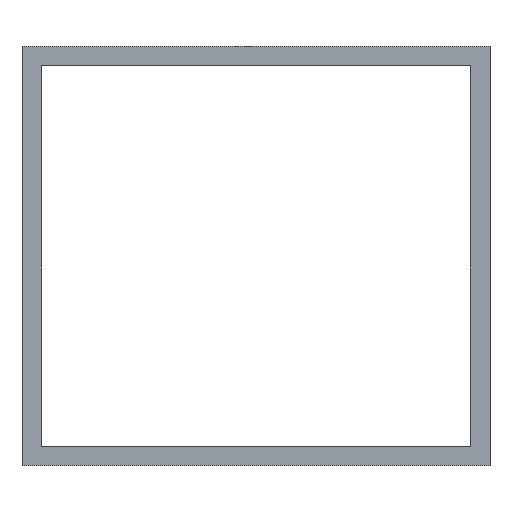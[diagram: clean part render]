
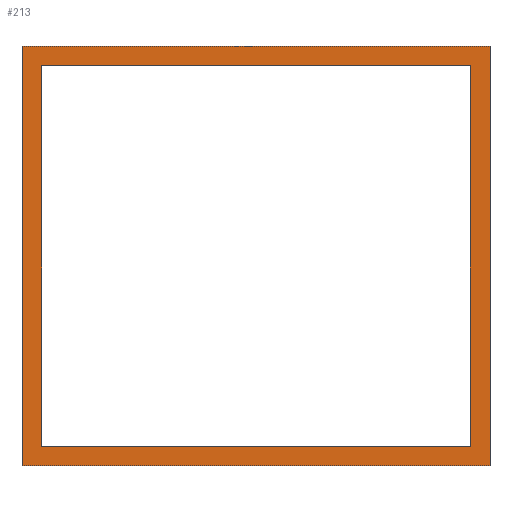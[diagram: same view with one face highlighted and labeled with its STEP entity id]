
A CAD part, top view. The second image highlights one B-rep face of the part: STEP entity #213.
In plain terms, the highlighted planar face has unit normal (0, 0, 1).
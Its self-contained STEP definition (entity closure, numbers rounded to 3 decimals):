
#24 = VERTEX_POINT('',#25);
#25 = CARTESIAN_POINT('',(-48.,-43.,1.8));
#32 = PLANE('',#33);
#33 = AXIS2_PLACEMENT_3D('',#34,#35,#36);
#34 = CARTESIAN_POINT('',(-48.,-43.,0.));
#35 = DIRECTION('',(1.,0.,0.));
#36 = DIRECTION('',(0.,0.,1.));
#44 = PLANE('',#45);
#45 = AXIS2_PLACEMENT_3D('',#46,#47,#48);
#46 = CARTESIAN_POINT('',(-48.,-43.,0.));
#47 = DIRECTION('',(0.,1.,0.));
#48 = DIRECTION('',(0.,0.,1.));
#85 = VERTEX_POINT('',#86);
#86 = CARTESIAN_POINT('',(-48.,43.,1.8));
#100 = PLANE('',#101);
#101 = AXIS2_PLACEMENT_3D('',#102,#103,#104);
#102 = CARTESIAN_POINT('',(-48.,43.,0.));
#103 = DIRECTION('',(0.,1.,0.));
#104 = DIRECTION('',(0.,0.,1.));
#112 = EDGE_CURVE('',#24,#85,#113,.T.);
#113 = SURFACE_CURVE('',#114,(#118,#125),.PCURVE_S1.);
#114 = LINE('',#115,#116);
#115 = CARTESIAN_POINT('',(-48.,-43.,1.8));
#116 = VECTOR('',#117,1.);
#117 = DIRECTION('',(0.,1.,0.));
#118 = PCURVE('',#32,#119);
#119 = DEFINITIONAL_REPRESENTATION('',(#120),#124);
#120 = LINE('',#121,#122);
#121 = CARTESIAN_POINT('',(1.8,0.));
#122 = VECTOR('',#123,1.);
#123 = DIRECTION('',(0.,-1.));
#124 = ( GEOMETRIC_REPRESENTATION_CONTEXT(2) 
PARAMETRIC_REPRESENTATION_CONTEXT() REPRESENTATION_CONTEXT('2D SPACE',''
  ) );
#125 = PCURVE('',#126,#131);
#126 = PLANE('',#127);
#127 = AXIS2_PLACEMENT_3D('',#128,#129,#130);
#128 = CARTESIAN_POINT('',(-48.,-43.,1.8));
#129 = DIRECTION('',(0.,0.,1.));
#130 = DIRECTION('',(1.,0.,0.));
#131 = DEFINITIONAL_REPRESENTATION('',(#132),#136);
#132 = LINE('',#133,#134);
#133 = CARTESIAN_POINT('',(0.,0.));
#134 = VECTOR('',#135,1.);
#135 = DIRECTION('',(0.,1.));
#136 = ( GEOMETRIC_REPRESENTATION_CONTEXT(2) 
PARAMETRIC_REPRESENTATION_CONTEXT() REPRESENTATION_CONTEXT('2D SPACE',''
  ) );
#165 = EDGE_CURVE('',#24,#166,#168,.T.);
#166 = VERTEX_POINT('',#167);
#167 = CARTESIAN_POINT('',(48.,-43.,1.8));
#168 = SURFACE_CURVE('',#169,(#173,#180),.PCURVE_S1.);
#169 = LINE('',#170,#171);
#170 = CARTESIAN_POINT('',(-48.,-43.,1.8));
#171 = VECTOR('',#172,1.);
#172 = DIRECTION('',(1.,0.,0.));
#173 = PCURVE('',#44,#174);
#174 = DEFINITIONAL_REPRESENTATION('',(#175),#179);
#175 = LINE('',#176,#177);
#176 = CARTESIAN_POINT('',(1.8,0.));
#177 = VECTOR('',#178,1.);
#178 = DIRECTION('',(0.,1.));
#179 = ( GEOMETRIC_REPRESENTATION_CONTEXT(2) 
PARAMETRIC_REPRESENTATION_CONTEXT() REPRESENTATION_CONTEXT('2D SPACE',''
  ) );
#180 = PCURVE('',#126,#181);
#181 = DEFINITIONAL_REPRESENTATION('',(#182),#186);
#182 = LINE('',#183,#184);
#183 = CARTESIAN_POINT('',(0.,0.));
#184 = VECTOR('',#185,1.);
#185 = DIRECTION('',(1.,0.));
#186 = ( GEOMETRIC_REPRESENTATION_CONTEXT(2) 
PARAMETRIC_REPRESENTATION_CONTEXT() REPRESENTATION_CONTEXT('2D SPACE',''
  ) );
#202 = PLANE('',#203);
#203 = AXIS2_PLACEMENT_3D('',#204,#205,#206);
#204 = CARTESIAN_POINT('',(48.,-43.,0.));
#205 = DIRECTION('',(1.,0.,0.));
#206 = DIRECTION('',(0.,0.,1.));
#213 = ADVANCED_FACE('',(#214,#262),#126,.T.);
#214 = FACE_BOUND('',#215,.T.);
#215 = EDGE_LOOP('',(#216,#217,#218,#241));
#216 = ORIENTED_EDGE('',*,*,#112,.F.);
#217 = ORIENTED_EDGE('',*,*,#165,.T.);
#218 = ORIENTED_EDGE('',*,*,#219,.T.);
#219 = EDGE_CURVE('',#166,#220,#222,.T.);
#220 = VERTEX_POINT('',#221);
#221 = CARTESIAN_POINT('',(48.,43.,1.8));
#222 = SURFACE_CURVE('',#223,(#227,#234),.PCURVE_S1.);
#223 = LINE('',#224,#225);
#224 = CARTESIAN_POINT('',(48.,-43.,1.8));
#225 = VECTOR('',#226,1.);
#226 = DIRECTION('',(0.,1.,0.));
#227 = PCURVE('',#126,#228);
#228 = DEFINITIONAL_REPRESENTATION('',(#229),#233);
#229 = LINE('',#230,#231);
#230 = CARTESIAN_POINT('',(96.,0.));
#231 = VECTOR('',#232,1.);
#232 = DIRECTION('',(0.,1.));
#233 = ( GEOMETRIC_REPRESENTATION_CONTEXT(2) 
PARAMETRIC_REPRESENTATION_CONTEXT() REPRESENTATION_CONTEXT('2D SPACE',''
  ) );
#234 = PCURVE('',#202,#235);
#235 = DEFINITIONAL_REPRESENTATION('',(#236),#240);
#236 = LINE('',#237,#238);
#237 = CARTESIAN_POINT('',(1.8,0.));
#238 = VECTOR('',#239,1.);
#239 = DIRECTION('',(0.,-1.));
#240 = ( GEOMETRIC_REPRESENTATION_CONTEXT(2) 
PARAMETRIC_REPRESENTATION_CONTEXT() REPRESENTATION_CONTEXT('2D SPACE',''
  ) );
#241 = ORIENTED_EDGE('',*,*,#242,.F.);
#242 = EDGE_CURVE('',#85,#220,#243,.T.);
#243 = SURFACE_CURVE('',#244,(#248,#255),.PCURVE_S1.);
#244 = LINE('',#245,#246);
#245 = CARTESIAN_POINT('',(-48.,43.,1.8));
#246 = VECTOR('',#247,1.);
#247 = DIRECTION('',(1.,0.,0.));
#248 = PCURVE('',#126,#249);
#249 = DEFINITIONAL_REPRESENTATION('',(#250),#254);
#250 = LINE('',#251,#252);
#251 = CARTESIAN_POINT('',(0.,86.));
#252 = VECTOR('',#253,1.);
#253 = DIRECTION('',(1.,0.));
#254 = ( GEOMETRIC_REPRESENTATION_CONTEXT(2) 
PARAMETRIC_REPRESENTATION_CONTEXT() REPRESENTATION_CONTEXT('2D SPACE',''
  ) );
#255 = PCURVE('',#100,#256);
#256 = DEFINITIONAL_REPRESENTATION('',(#257),#261);
#257 = LINE('',#258,#259);
#258 = CARTESIAN_POINT('',(1.8,0.));
#259 = VECTOR('',#260,1.);
#260 = DIRECTION('',(0.,1.));
#261 = ( GEOMETRIC_REPRESENTATION_CONTEXT(2) 
PARAMETRIC_REPRESENTATION_CONTEXT() REPRESENTATION_CONTEXT('2D SPACE',''
  ) );
#262 = FACE_BOUND('',#263,.T.);
#263 = EDGE_LOOP('',(#264,#292,#318,#344));
#264 = ORIENTED_EDGE('',*,*,#265,.T.);
#265 = EDGE_CURVE('',#266,#268,#270,.T.);
#266 = VERTEX_POINT('',#267);
#267 = CARTESIAN_POINT('',(44.,-39.,1.8));
#268 = VERTEX_POINT('',#269);
#269 = CARTESIAN_POINT('',(-44.,-39.,1.8));
#270 = SURFACE_CURVE('',#271,(#275,#281),.PCURVE_S1.);
#271 = LINE('',#272,#273);
#272 = CARTESIAN_POINT('',(-46.,-39.,1.8));
#273 = VECTOR('',#274,1.);
#274 = DIRECTION('',(-1.,0.,0.));
#275 = PCURVE('',#126,#276);
#276 = DEFINITIONAL_REPRESENTATION('',(#277),#280);
#277 = B_SPLINE_CURVE_WITH_KNOTS('',1,(#278,#279),.UNSPECIFIED.,.F.,.F.,
  (2,2),(-90.,-2.),.PIECEWISE_BEZIER_KNOTS.);
#278 = CARTESIAN_POINT('',(92.,4.));
#279 = CARTESIAN_POINT('',(4.,4.));
#280 = ( GEOMETRIC_REPRESENTATION_CONTEXT(2) 
PARAMETRIC_REPRESENTATION_CONTEXT() REPRESENTATION_CONTEXT('2D SPACE',''
  ) );
#281 = PCURVE('',#282,#287);
#282 = PLANE('',#283);
#283 = AXIS2_PLACEMENT_3D('',#284,#285,#286);
#284 = CARTESIAN_POINT('',(-44.,-39.,0.));
#285 = DIRECTION('',(0.,1.,0.));
#286 = DIRECTION('',(0.,0.,1.));
#287 = DEFINITIONAL_REPRESENTATION('',(#288),#291);
#288 = B_SPLINE_CURVE_WITH_KNOTS('',1,(#289,#290),.UNSPECIFIED.,.F.,.F.,
  (2,2),(-90.,-2.),.PIECEWISE_BEZIER_KNOTS.);
#289 = CARTESIAN_POINT('',(1.8,88.));
#290 = CARTESIAN_POINT('',(1.8,0.));
#291 = ( GEOMETRIC_REPRESENTATION_CONTEXT(2) 
PARAMETRIC_REPRESENTATION_CONTEXT() REPRESENTATION_CONTEXT('2D SPACE',''
  ) );
#292 = ORIENTED_EDGE('',*,*,#293,.T.);
#293 = EDGE_CURVE('',#268,#294,#296,.T.);
#294 = VERTEX_POINT('',#295);
#295 = CARTESIAN_POINT('',(-44.,39.,1.8));
#296 = SURFACE_CURVE('',#297,(#301,#307),.PCURVE_S1.);
#297 = LINE('',#298,#299);
#298 = CARTESIAN_POINT('',(-44.,-41.,1.8));
#299 = VECTOR('',#300,1.);
#300 = DIRECTION('',(0.,1.,0.));
#301 = PCURVE('',#126,#302);
#302 = DEFINITIONAL_REPRESENTATION('',(#303),#306);
#303 = B_SPLINE_CURVE_WITH_KNOTS('',1,(#304,#305),.UNSPECIFIED.,.F.,.F.,
  (2,2),(2.,80.),.PIECEWISE_BEZIER_KNOTS.);
#304 = CARTESIAN_POINT('',(4.,4.));
#305 = CARTESIAN_POINT('',(4.,82.));
#306 = ( GEOMETRIC_REPRESENTATION_CONTEXT(2) 
PARAMETRIC_REPRESENTATION_CONTEXT() REPRESENTATION_CONTEXT('2D SPACE',''
  ) );
#307 = PCURVE('',#308,#313);
#308 = PLANE('',#309);
#309 = AXIS2_PLACEMENT_3D('',#310,#311,#312);
#310 = CARTESIAN_POINT('',(-44.,-39.,0.));
#311 = DIRECTION('',(1.,0.,0.));
#312 = DIRECTION('',(0.,0.,1.));
#313 = DEFINITIONAL_REPRESENTATION('',(#314),#317);
#314 = B_SPLINE_CURVE_WITH_KNOTS('',1,(#315,#316),.UNSPECIFIED.,.F.,.F.,
  (2,2),(2.,80.),.PIECEWISE_BEZIER_KNOTS.);
#315 = CARTESIAN_POINT('',(1.8,0.));
#316 = CARTESIAN_POINT('',(1.8,-78.));
#317 = ( GEOMETRIC_REPRESENTATION_CONTEXT(2) 
PARAMETRIC_REPRESENTATION_CONTEXT() REPRESENTATION_CONTEXT('2D SPACE',''
  ) );
#318 = ORIENTED_EDGE('',*,*,#319,.F.);
#319 = EDGE_CURVE('',#320,#294,#322,.T.);
#320 = VERTEX_POINT('',#321);
#321 = CARTESIAN_POINT('',(44.,39.,1.8));
#322 = SURFACE_CURVE('',#323,(#327,#333),.PCURVE_S1.);
#323 = LINE('',#324,#325);
#324 = CARTESIAN_POINT('',(-46.,39.,1.8));
#325 = VECTOR('',#326,1.);
#326 = DIRECTION('',(-1.,0.,0.));
#327 = PCURVE('',#126,#328);
#328 = DEFINITIONAL_REPRESENTATION('',(#329),#332);
#329 = B_SPLINE_CURVE_WITH_KNOTS('',1,(#330,#331),.UNSPECIFIED.,.F.,.F.,
  (2,2),(-90.,-2.),.PIECEWISE_BEZIER_KNOTS.);
#330 = CARTESIAN_POINT('',(92.,82.));
#331 = CARTESIAN_POINT('',(4.,82.));
#332 = ( GEOMETRIC_REPRESENTATION_CONTEXT(2) 
PARAMETRIC_REPRESENTATION_CONTEXT() REPRESENTATION_CONTEXT('2D SPACE',''
  ) );
#333 = PCURVE('',#334,#339);
#334 = PLANE('',#335);
#335 = AXIS2_PLACEMENT_3D('',#336,#337,#338);
#336 = CARTESIAN_POINT('',(-44.,39.,0.));
#337 = DIRECTION('',(0.,1.,0.));
#338 = DIRECTION('',(0.,0.,1.));
#339 = DEFINITIONAL_REPRESENTATION('',(#340),#343);
#340 = B_SPLINE_CURVE_WITH_KNOTS('',1,(#341,#342),.UNSPECIFIED.,.F.,.F.,
  (2,2),(-90.,-2.),.PIECEWISE_BEZIER_KNOTS.);
#341 = CARTESIAN_POINT('',(1.8,88.));
#342 = CARTESIAN_POINT('',(1.8,0.));
#343 = ( GEOMETRIC_REPRESENTATION_CONTEXT(2) 
PARAMETRIC_REPRESENTATION_CONTEXT() REPRESENTATION_CONTEXT('2D SPACE',''
  ) );
#344 = ORIENTED_EDGE('',*,*,#345,.F.);
#345 = EDGE_CURVE('',#266,#320,#346,.T.);
#346 = SURFACE_CURVE('',#347,(#351,#357),.PCURVE_S1.);
#347 = LINE('',#348,#349);
#348 = CARTESIAN_POINT('',(44.,-41.,1.8));
#349 = VECTOR('',#350,1.);
#350 = DIRECTION('',(0.,1.,0.));
#351 = PCURVE('',#126,#352);
#352 = DEFINITIONAL_REPRESENTATION('',(#353),#356);
#353 = B_SPLINE_CURVE_WITH_KNOTS('',1,(#354,#355),.UNSPECIFIED.,.F.,.F.,
  (2,2),(2.,80.),.PIECEWISE_BEZIER_KNOTS.);
#354 = CARTESIAN_POINT('',(92.,4.));
#355 = CARTESIAN_POINT('',(92.,82.));
#356 = ( GEOMETRIC_REPRESENTATION_CONTEXT(2) 
PARAMETRIC_REPRESENTATION_CONTEXT() REPRESENTATION_CONTEXT('2D SPACE',''
  ) );
#357 = PCURVE('',#358,#363);
#358 = PLANE('',#359);
#359 = AXIS2_PLACEMENT_3D('',#360,#361,#362);
#360 = CARTESIAN_POINT('',(44.,-39.,0.));
#361 = DIRECTION('',(1.,0.,0.));
#362 = DIRECTION('',(0.,0.,1.));
#363 = DEFINITIONAL_REPRESENTATION('',(#364),#367);
#364 = B_SPLINE_CURVE_WITH_KNOTS('',1,(#365,#366),.UNSPECIFIED.,.F.,.F.,
  (2,2),(2.,80.),.PIECEWISE_BEZIER_KNOTS.);
#365 = CARTESIAN_POINT('',(1.8,0.));
#366 = CARTESIAN_POINT('',(1.8,-78.));
#367 = ( GEOMETRIC_REPRESENTATION_CONTEXT(2) 
PARAMETRIC_REPRESENTATION_CONTEXT() REPRESENTATION_CONTEXT('2D SPACE',''
  ) );
